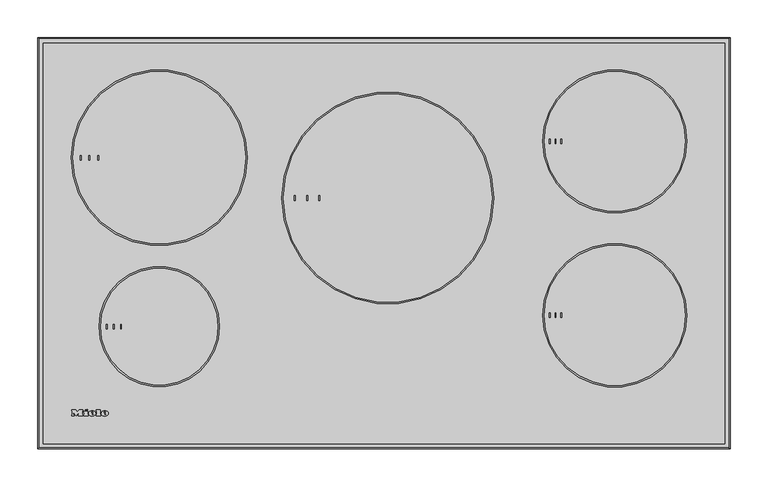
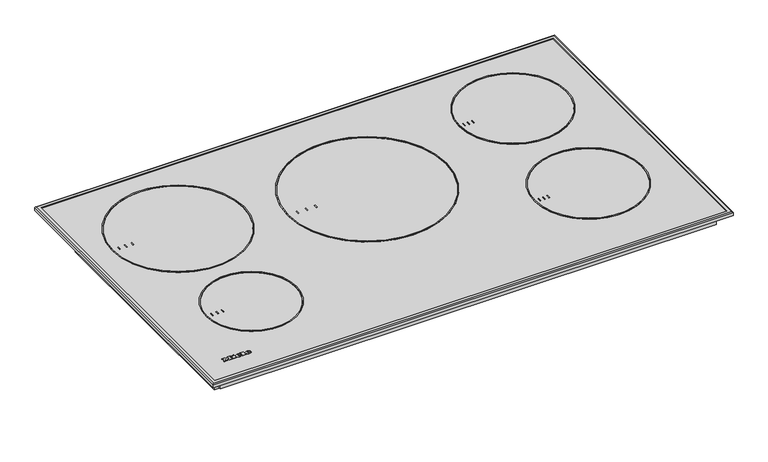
"""IFC4 building model written with IfcOpenShell, lengths in millimetres: proxy geometry, 12074220_USA_KM7740FR : 26774000_USA_12074220_KM7740FR."""

from ifc_helpers import new_model, si_unit, point, frame, frame_2d, origin, origin_with_axes, place, context, project, spatial, polyline, circle_curve, ellipse_curve, trimmed, segment, composite_curve, outline, extrude, source, transform, mapped, element, save
from ifc_brep_helpers import plane_surface, cylinder_surface, revolved_surface, extruded_surface, advanced_brep


def specialty_equipment_dfc6e14d(model_context):
    return source(origin(), model_context, "Body", "SolidModel", [
        extrude(outline(polyline([(337.5, 507.967223), (337.5, 412.967223), (398.5, 412.967223), (398.5, 84.0082872), (-407.5, 84.0082872), (-407.5, 507.967223), (337.5, 507.967223)])), frame((0.0, 0.0, -73.0), z_axis=(0.0, 0.0, 1.0), x_axis=(1.0, 0.0, 0.0)), (0.0, 0.0, 1.0), 55.0),
        extrude(outline(polyline([(436.5, 529.5), (436.5, 14.5), (-436.5, 14.5), (-436.5, 529.5), (436.5, 529.5)])), frame((0.0, 0.0, -18.0), z_axis=(0.0, 0.0, 1.0), x_axis=(1.0, 0.0, 0.0)), (0.0, 0.0, 1.0), 18.0),
        extrude(outline(polyline([(454.5, 541.0003766), (454.5, 2.9996234), (-454.5, 2.9996234), (-454.5, 541.0003766), (454.5, 541.0003766)])), origin_with_axes(), (0.0, 0.0, 1.0), 5.5),
        advanced_brep(
        [(456.100005, 542.600005, 5.6145786), (456.100005, 542.600005, 0.0), (456.100005, 1.399995, 0.0), (456.100005, 1.399995, 5.6145786), (450.546384, 537.046384, 7.0), (450.546384, 537.046384, 5.6145786), (450.546384, 6.953616, 5.6145786), (450.546384, 6.953616, 7.0), (457.5, 544.0, 5.5), (456.0, 542.5, 7.0), (456.0, 1.5, 7.0), (457.5, 0.0, 5.5), (457.5, 544.0, 0.0), (457.5, 0.0, 0.0), (-456.100005, 1.399995, 0.0), (-456.100005, 1.399995, 5.6145786), (-450.546384, 6.953616, 5.6145786), (-450.546384, 6.953616, 7.0), (-456.0, 1.5, 7.0), (-457.5, 0.0, 5.5), (-457.5, 0.0, 0.0), (-456.100005, 542.600005, 0.0), (-456.100005, 542.600005, 5.6145786), (-450.546384, 537.046384, 5.6145786), (-450.546384, 537.046384, 7.0), (-456.0, 542.5, 7.0), (-457.5, 544.0, 5.5), (-457.5, 544.0, 0.0)],
        [
            (0, 1),
            (1, 2),
            (2, 3),
            (3, 0),
            (4, 5),
            (5, 6),
            (6, 7),
            (7, 4),
            (8, 9, ellipse_curve(frame((456.0, 542.5, 5.5), z_axis=(0.7071067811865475, -0.7071067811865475, 0.0), x_axis=(0.7071067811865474, 0.7071067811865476, 0.0)), 2.1213203, 1.5)),
            (9, 10),
            (10, 11, ellipse_curve(frame((456.0, 1.5, 5.5), z_axis=(0.7071067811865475, 0.7071067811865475, 0.0), x_axis=(-0.7071067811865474, 0.7071067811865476, 0.0)), 2.1213203, 1.5)),
            (11, 8),
            (12, 8),
            (11, 13),
            (13, 12),
            (2, 14),
            (14, 15),
            (15, 3),
            (6, 16),
            (16, 17),
            (17, 7),
            (10, 18),
            (18, 19, ellipse_curve(frame((-456.0, 1.5, 5.5), z_axis=(0.7071067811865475, -0.7071067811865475, 0.0), x_axis=(0.7071067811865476, 0.7071067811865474, 0.0)), 2.1213203, 1.5)),
            (19, 11),
            (19, 20),
            (20, 13),
            (14, 21),
            (21, 22),
            (22, 15),
            (16, 23),
            (23, 24),
            (24, 17),
            (18, 25),
            (25, 26, ellipse_curve(frame((-456.0, 542.5, 5.5), z_axis=(-0.7071067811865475, -0.7071067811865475, 0.0), x_axis=(0.7071067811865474, -0.7071067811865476, 0.0)), 2.1213203, 1.5)),
            (26, 19),
            (26, 27),
            (27, 20),
            (21, 1),
            (0, 22),
            (5, 23),
            (4, 24),
            (9, 25),
            (8, 26),
            (12, 27),
        ],
        [
            plane_surface(frame((456.100005, 542.600005, 0.0), z_axis=(-1.0, 0.0, 0.0), x_axis=(0.0, -1.0, 0.0))),
            plane_surface(frame((450.546384, 537.046384, 5.6145786), z_axis=(-1.0, 0.0, 0.0), x_axis=(0.0, -1.0, 0.0))),
            cylinder_surface(frame((456.0, 544.0, 5.5), z_axis=(0.0, 1.0, 0.0), x_axis=(1.0, 0.0, 0.0)), 1.5),
            plane_surface(frame((457.5, 544.0, 5.5), z_axis=(1.0, 0.0, 0.0), x_axis=(0.0, -1.0, 0.0))),
            plane_surface(frame((456.100005, 1.399995, 0.0), z_axis=(0.0, 1.0, 0.0), x_axis=(-1.0, 0.0, 0.0))),
            plane_surface(frame((450.546384, 6.953616, 5.6145786), z_axis=(0.0, 1.0, 0.0), x_axis=(-1.0, 0.0, 0.0))),
            cylinder_surface(frame((457.5, 1.5, 5.5), z_axis=(1.0, 0.0, 0.0), x_axis=(0.0, -1.0, 0.0)), 1.5),
            plane_surface(frame((457.5, 0.0, 5.5), z_axis=(0.0, -1.0, 0.0), x_axis=(-1.0, 0.0, 0.0))),
            plane_surface(frame((-456.100005, 1.399995, 0.0), z_axis=(1.0, 0.0, 0.0), x_axis=(0.0, 1.0, 0.0))),
            plane_surface(frame((-450.546384, 6.953616, 5.6145786), z_axis=(1.0, 0.0, 0.0), x_axis=(0.0, 1.0, 0.0))),
            cylinder_surface(frame((-456.0, 0.0, 5.5), z_axis=(0.0, -1.0, 0.0), x_axis=(-1.0, 0.0, 0.0)), 1.5),
            plane_surface(frame((-457.5, 0.0, 5.5), z_axis=(-1.0, 0.0, 0.0), x_axis=(0.0, 1.0, 0.0))),
            plane_surface(frame((-456.100005, 542.600005, 0.0), z_axis=(0.0, -1.0, 0.0), x_axis=(1.0, 0.0, 0.0))),
            plane_surface(frame((-456.100005, 542.600005, 5.6145786), z_axis=(0.0, 0.0, -1.0), x_axis=(1.0, 0.0, 0.0))),
            plane_surface(frame((-450.546384, 537.046384, 5.6145786), z_axis=(0.0, -1.0, 0.0), x_axis=(1.0, 0.0, 0.0))),
            plane_surface(frame((-450.546384, 537.046384, 7.0), z_axis=(0.0, 0.0, 1.0), x_axis=(1.0, 0.0, 0.0))),
            cylinder_surface(frame((-457.5, 542.5, 5.5), z_axis=(-1.0, 0.0, 0.0), x_axis=(0.0, 1.0, 0.0)), 1.5),
            plane_surface(frame((-457.5, 544.0, 5.5), z_axis=(0.0, 1.0, 0.0), x_axis=(1.0, 0.0, 0.0))),
            plane_surface(frame((-457.5, 544.0, 0.0), z_axis=(0.0, 0.0, -1.0), x_axis=(1.0, 0.0, 0.0))),
        ],
        [
            (0, [[1, 2, 3, 4]]),
            (1, [[5, 6, 7, 8]]),
            (2, [[9, 10, 11, 12]]),
            (3, [[13, -12, 14, 15]]),
            (4, [[-3, 16, 17, 18]]),
            (5, [[-7, 19, 20, 21]]),
            (6, [[-11, 22, 23, 24]]),
            (7, [[-14, -24, 25, 26]]),
            (8, [[-17, 27, 28, 29]]),
            (9, [[-20, 30, 31, 32]]),
            (10, [[-23, 33, 34, 35]]),
            (11, [[-25, -35, 36, 37]]),
            (12, [[-28, 38, -1, 39]]),
            (13, [[-18, -29, -39, -4], [40, -30, -19, -6]]),
            (14, [[-31, -40, -5, 41]]),
            (15, [[42, -33, -22, -10], [-21, -32, -41, -8]]),
            (16, [[-34, -42, -9, 43]]),
            (17, [[-36, -43, -13, 44]]),
            (18, [[-26, -37, -44, -15], [-38, -27, -16, -2]]),
        ],
    ),
        extrude(outline(polyline([(-117.2094316, 329.0101613), (-118.4056402, 329.0101613), (-118.4056402, 335.0020789), (-117.2094316, 335.0020789), (-117.2094316, 329.0101613)])), frame((0.0, 0.0, 5.5), z_axis=(0.0, 0.0, 1.0), x_axis=(1.0, 0.0, 0.0)), (0.0, 0.0, 1.0), 1.0),
        extrude(outline(polyline([(-101.0966441, 329.0101026), (-102.3053924, 329.0101026), (-102.3053924, 334.988062), (-101.0966441, 334.988062), (-101.0966441, 329.0101026)])), frame((0.0, 0.0, 5.5), z_axis=(0.0, 0.0, 1.0), x_axis=(1.0, 0.0, 0.0)), (0.0, 0.0, 1.0), 1.0),
        extrude(outline(polyline([(-84.9979522, 329.0091857), (-86.2059633, 329.0091857), (-86.2059633, 335.0066499), (-84.9979522, 335.0066499), (-84.9979522, 329.0091857)])), frame((0.0, 0.0, 5.5), z_axis=(0.0, 0.0, 1.0), x_axis=(1.0, 0.0, 0.0)), (0.0, 0.0, 1.0), 1.0),
        extrude(outline(composite_curve([segment(trimmed(circle_curve(frame_2d((305.0, 177.0)), 95.0), [point((210.0, 177.0))], [point((400.0, 177.0))], False, "CARTESIAN"), True, "CONTINUOUS"), segment(trimmed(circle_curve(frame_2d((305.0, 177.0)), 95.0), [point((400.0, 177.0))], [point((210.0, 177.0))], False, "CARTESIAN"), True, "CONTINUOUS")], self_intersect=False), holes=[composite_curve([segment(trimmed(circle_curve(frame_2d((305.0, 177.0)), 93.0), [point((212.0, 177.0))], [point((398.0, 177.0))], True, "CARTESIAN"), True, "CONTINUOUS"), segment(trimmed(circle_curve(frame_2d((305.0, 177.0)), 93.0), [point((398.0, 177.0))], [point((212.0, 177.0))], True, "CARTESIAN"), True, "CONTINUOUS")], self_intersect=False)]), frame((0.0, 0.0, 5.5), z_axis=(0.0, 0.0, 1.0), x_axis=(1.0, 0.0, 0.0)), (0.0, 0.0, 1.0), 1.0),
        extrude(outline(polyline([(219.4685475, 180.0109654), (219.4685475, 173.9997523), (218.2459657, 173.9997523), (218.2459657, 180.0109654), (219.4685475, 180.0109654)])), frame((0.0, 0.0, 5.5), z_axis=(0.0, 0.0, 1.0), x_axis=(1.0, 0.0, 0.0)), (0.0, 0.0, 1.0), 1.0),
        extrude(outline(polyline([(227.2298914, 180.004569), (227.2298914, 173.999944), (226.0345054, 173.999944), (226.0345054, 180.004569), (227.2298914, 180.004569)])), frame((0.0, 0.0, 5.5), z_axis=(0.0, 0.0, 1.0), x_axis=(1.0, 0.0, 0.0)), (0.0, 0.0, 1.0), 1.0),
        extrude(outline(polyline([(234.9922897, 173.999944), (233.7842277, 173.999944), (233.7842277, 180.004569), (234.9922897, 180.004569), (234.9922897, 173.999944)])), frame((0.0, 0.0, 5.5), z_axis=(0.0, 0.0, 1.0), x_axis=(1.0, 0.0, 0.0)), (0.0, 0.0, 1.0), 1.0),
        extrude(outline(composite_curve([segment(trimmed(circle_curve(frame_2d((5.0, 332.0)), 140.0), [point((-135.0, 332.0))], [point((145.0, 332.0))], False, "CARTESIAN"), True, "CONTINUOUS"), segment(trimmed(circle_curve(frame_2d((5.0, 332.0)), 140.0), [point((145.0, 332.0))], [point((-135.0, 332.0))], False, "CARTESIAN"), True, "CONTINUOUS")], self_intersect=False), holes=[composite_curve([segment(trimmed(circle_curve(frame_2d((5.0, 332.0)), 138.0), [point((-133.0, 332.0))], [point((143.0, 332.0))], True, "CARTESIAN"), True, "CONTINUOUS"), segment(trimmed(circle_curve(frame_2d((5.0, 332.0)), 138.0), [point((143.0, 332.0))], [point((-133.0, 332.0))], True, "CARTESIAN"), True, "CONTINUOUS")], self_intersect=False)]), frame((0.0, 0.0, 5.5), z_axis=(0.0, 0.0, 1.0), x_axis=(1.0, 0.0, 0.0)), (0.0, 0.0, 1.0), 1.0),
        extrude(outline(polyline([(-54.6543984, 357.2597012), (-44.6087674, 357.2597012), (-44.6087674, 350.0394039), (-45.8644713, 350.0394039), (-45.8644713, 356.0039974), (-48.846768, 356.0039974), (-48.846768, 350.3533299), (-50.1024718, 350.3533299), (-50.1024718, 356.0039974), (-53.3986945, 356.0039974), (-53.3986945, 349.882441), (-54.6543984, 349.882441), (-54.6543984, 357.2597012)])), frame((0.0, 455.5664955, 0.0), z_axis=(0.0, 1.0, 0.0), x_axis=(0.0, 0.0, 1.0)), (0.0, 0.0, 1.0), 1.0),
        extrude(outline(polyline([(-54.6543984, 347.9988851), (-44.6087674, 347.9988851), (-44.6087674, 346.7431813), (-53.3986945, 346.7431813), (-53.3986945, 341.7203658), (-54.6543984, 341.7203658), (-54.6543984, 347.9988851)])), frame((0.0, 455.5664955, 0.0), z_axis=(0.0, 1.0, 0.0), x_axis=(0.0, 0.0, 1.0)), (0.0, 0.0, 1.0), 1.0),
        advanced_brep(
        [(337.5, 423.9999912, -49.6543984), (337.5, 439.9999912, -49.6543984), (359.0665043, 423.9999912, -49.6543984), (343.0665043, 439.9999912, -49.6543984), (359.0665043, 455.5664955, -49.6543984), (343.0665043, 455.5664955, -49.6543984)],
        [
            (0, 1, circle_curve(frame((337.5, 431.9999912, -49.6543984), z_axis=(-1.0, 0.0, 0.0), x_axis=(0.0, 1.0, 0.0)), 8.0)),
            (1, 0, circle_curve(frame((337.5, 431.9999912, -49.6543984), z_axis=(-1.0, 0.0, 0.0), x_axis=(0.0, 1.0, 0.0)), 8.0)),
            (0, 2),
            (2, 3, ellipse_curve(frame((351.0665043, 431.9999912, -49.6543984), z_axis=(-0.7071067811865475, -0.7071067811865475, 0.0), x_axis=(-0.7071067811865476, 0.7071067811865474, 0.0)), 11.3137085, 8.0)),
            (3, 1),
            (3, 2, ellipse_curve(frame((351.0665043, 431.9999912, -49.6543984), z_axis=(-0.7071067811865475, -0.7071067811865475, 0.0), x_axis=(-0.7071067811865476, 0.7071067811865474, 0.0)), 11.3137085, 8.0)),
            (4, 5, circle_curve(frame((351.0665043, 455.5664955, -49.6543984), z_axis=(0.0, 1.0, 0.0), x_axis=(-1.0, 0.0, 0.0)), 8.0)),
            (5, 4, circle_curve(frame((351.0665043, 455.5664955, -49.6543984), z_axis=(0.0, 1.0, 0.0), x_axis=(-1.0, 0.0, 0.0)), 8.0)),
            (2, 4),
            (5, 3),
        ],
        [
            plane_surface(frame((337.5, 435.5664955, 50.5163179), z_axis=(-1.0, 0.0, 0.0), x_axis=(0.0, 0.0, 1.0))),
            cylinder_surface(frame((337.5, 431.9999912, -49.6543984), z_axis=(-1.0, 0.0, 0.0), x_axis=(0.0, 1.0, 0.0)), 8.0),
            plane_surface(frame((347.5, 455.5664955, 50.5163179), z_axis=(0.0, 1.0, 0.0), x_axis=(0.0, 0.0, 1.0))),
            cylinder_surface(frame((351.0665043, 435.5664955, -49.6543984), z_axis=(0.0, -1.0, 0.0), x_axis=(-1.0, 0.0, 0.0)), 8.0),
        ],
        [
            (0, [[1, 2]]),
            (1, [[-1, 3, 4, 5]]),
            (1, [[-2, -5, 6, -3]]),
            (2, [[7, 8]]),
            (3, [[-4, 9, -8, 10]]),
            (3, [[-6, -10, -7, -9]]),
        ],
    ),
        extrude(outline(composite_curve([segment(trimmed(circle_curve(frame_2d((-297.0, 162.0)), 79.5526413), [point((-376.5526413, 162.0))], [point((-217.4473587, 162.0))], False, "CARTESIAN"), True, "CONTINUOUS"), segment(trimmed(circle_curve(frame_2d((-297.0, 162.0)), 79.5526413), [point((-217.4473587, 162.0))], [point((-376.5526413, 162.0))], False, "CARTESIAN"), True, "CONTINUOUS")], self_intersect=False), holes=[composite_curve([segment(trimmed(circle_curve(frame_2d((-297.0, 162.0)), 77.5526413), [point((-374.5526413, 162.0))], [point((-219.4473587, 162.0))], True, "CARTESIAN"), True, "CONTINUOUS"), segment(trimmed(circle_curve(frame_2d((-297.0, 162.0)), 77.5526413), [point((-219.4473587, 162.0))], [point((-374.5526413, 162.0))], True, "CARTESIAN"), True, "CONTINUOUS")], self_intersect=False)]), frame((0.0, 0.0, 5.5), z_axis=(0.0, 0.0, 1.0), x_axis=(1.0, 0.0, 0.0)), (0.0, 0.0, 1.0), 1.0),
        extrude(outline(polyline([(-365.8544534, 164.9888297), (-365.8544534, 158.9851934), (-367.0783352, 158.9851934), (-367.0783352, 164.9888297), (-365.8544534, 164.9888297)])), frame((0.0, 0.0, 5.5), z_axis=(0.0, 0.0, 1.0), x_axis=(1.0, 0.0, 0.0)), (0.0, 0.0, 1.0), 1.0),
        extrude(outline(polyline([(-356.4272558, 158.9851934), (-357.6180597, 158.9851934), (-357.6180597, 164.9888297), (-356.4272558, 164.9888297), (-356.4272558, 158.9851934)])), frame((0.0, 0.0, 5.5), z_axis=(0.0, 0.0, 1.0), x_axis=(1.0, 0.0, 0.0)), (0.0, 0.0, 1.0), 1.0),
        extrude(outline(polyline([(-346.9835194, 164.9888297), (-346.9835194, 158.9851934), (-348.2074011, 158.9851934), (-348.2074011, 164.9888297), (-346.9835194, 164.9888297)])), frame((0.0, 0.0, 5.5), z_axis=(0.0, 0.0, 1.0), x_axis=(1.0, 0.0, 0.0)), (0.0, 0.0, 1.0), 1.0),
        extrude(outline(composite_curve([segment(trimmed(circle_curve(frame_2d((-297.0, 385.3)), 116.2069307), [point((-413.2069307, 385.3))], [point((-180.7930693, 385.3))], False, "CARTESIAN"), True, "CONTINUOUS"), segment(trimmed(circle_curve(frame_2d((-297.0, 385.3)), 116.2069307), [point((-180.7930693, 385.3))], [point((-413.2069307, 385.3))], False, "CARTESIAN"), True, "CONTINUOUS")], self_intersect=False), holes=[composite_curve([segment(trimmed(circle_curve(frame_2d((-297.0, 385.3)), 114.2069307), [point((-411.2069307, 385.3))], [point((-182.7930693, 385.3))], True, "CARTESIAN"), True, "CONTINUOUS"), segment(trimmed(circle_curve(frame_2d((-297.0, 385.3)), 114.2069307), [point((-182.7930693, 385.3))], [point((-411.2069307, 385.3))], True, "CARTESIAN"), True, "CONTINUOUS")], self_intersect=False)]), frame((0.0, 0.0, 5.5), z_axis=(0.0, 0.0, 1.0), x_axis=(1.0, 0.0, 0.0)), (0.0, 0.0, 1.0), 1.0),
        extrude(outline(polyline([(-400.3434268, 388.3104614), (-400.3434268, 382.306825), (-401.5342307, 382.306825), (-401.5342307, 388.3104614), (-400.3434268, 388.3104614)])), frame((0.0, 0.0, 5.5), z_axis=(0.0, 0.0, 1.0), x_axis=(1.0, 0.0, 0.0)), (0.0, 0.0, 1.0), 1.0),
        extrude(outline(polyline([(-388.666933, 388.3270003), (-388.666933, 382.2737472), (-389.9073538, 382.2737472), (-389.9073538, 388.3270003), (-388.666933, 388.3270003)])), frame((0.0, 0.0, 5.5), z_axis=(0.0, 0.0, 1.0), x_axis=(1.0, 0.0, 0.0)), (0.0, 0.0, 1.0), 1.0),
        extrude(outline(polyline([(-376.9974439, 388.2974992), (-376.9974439, 382.3041668), (-378.2054772, 382.3041668), (-378.2054772, 388.2974992), (-376.9974439, 388.2974992)])), frame((0.0, 0.0, 5.5), z_axis=(0.0, 0.0, 1.0), x_axis=(1.0, 0.0, 0.0)), (0.0, 0.0, 1.0), 1.0),
        extrude(outline(composite_curve([segment(trimmed(circle_curve(frame_2d((305.0, 407.0)), 95.0), [point((210.0, 407.0))], [point((400.0, 407.0))], False, "CARTESIAN"), True, "CONTINUOUS"), segment(trimmed(circle_curve(frame_2d((305.0, 407.0)), 95.0), [point((400.0, 407.0))], [point((210.0, 407.0))], False, "CARTESIAN"), True, "CONTINUOUS")], self_intersect=False), holes=[composite_curve([segment(trimmed(circle_curve(frame_2d((305.0, 407.0)), 93.0), [point((212.0, 407.0))], [point((398.0, 407.0))], True, "CARTESIAN"), True, "CONTINUOUS"), segment(trimmed(circle_curve(frame_2d((305.0, 407.0)), 93.0), [point((398.0, 407.0))], [point((212.0, 407.0))], True, "CARTESIAN"), True, "CONTINUOUS")], self_intersect=False)]), frame((0.0, 0.0, 5.5), z_axis=(0.0, 0.0, 1.0), x_axis=(1.0, 0.0, 0.0)), (0.0, 0.0, 1.0), 1.0),
        extrude(outline(polyline([(219.45432, 410.0004117), (219.45432, 404.0031891), (218.2637756, 404.0031891), (218.2637756, 410.0004117), (219.45432, 410.0004117)])), frame((0.0, 0.0, 5.5), z_axis=(0.0, 0.0, 1.0), x_axis=(1.0, 0.0, 0.0)), (0.0, 0.0, 1.0), 1.0),
        extrude(outline(polyline([(227.243635, 410.0015472), (227.243635, 404.0031891), (226.0293514, 404.0031891), (226.0293514, 410.0015472), (227.243635, 410.0015472)])), frame((0.0, 0.0, 5.5), z_axis=(0.0, 0.0, 1.0), x_axis=(1.0, 0.0, 0.0)), (0.0, 0.0, 1.0), 1.0),
        extrude(outline(polyline([(235.0010161, 410.0002689), (235.0010161, 403.9996722), (233.8008127, 403.9996722), (233.8008127, 410.0002689), (235.0010161, 410.0002689)])), frame((0.0, 0.0, 5.5), z_axis=(0.0, 0.0, 1.0), x_axis=(1.0, 0.0, 0.0)), (0.0, 0.0, 1.0), 1.0),
        advanced_brep(
        [(-369.64, 45.896, 6.5), (-369.64, 46.704, 6.5), (-364.288, 46.704, 6.5), (-373.6, 46.704, 6.5), (-371.4, 44.0, 6.5), (-364.424, 45.896, 6.5), (-366.84, 45.896, 6.5), (-368.744, 45.0, 6.5), (-369.64, 47.728, 6.5), (-369.64, 48.6, 6.5), (-368.272, 48.6, 6.5), (-368.272, 47.728, 6.5), (-369.64, 45.896, 5.5), (-368.744, 45.0, 5.5), (-366.84, 45.896, 5.5), (-364.424, 45.896, 5.5), (-371.4, 44.0, 5.5), (-373.6, 46.704, 5.5), (-364.288, 46.704, 5.5), (-369.64, 46.704, 5.5), (-369.64, 47.728, 5.5), (-368.272, 47.728, 5.5), (-368.272, 48.6, 5.5), (-369.64, 48.6, 5.5)],
        [
            (0, 1),
            (1, 2),
            (2, 3, ellipse_curve(frame((-368.944, 46.704, 6.5), z_axis=(0.0, 0.0, 1.0), x_axis=(-1.0, 0.0, 0.0)), 4.656, 3.848)),
            (3, 4, circle_curve(frame((-370.5039564, 46.976, 6.5), z_axis=(0.0, 0.0, 1.0), x_axis=(0.0, -1.0, 0.0)), 3.1079688)),
            (4, 5, circle_curve(frame((-369.0372064, 49.088, 6.5), z_axis=(0.0, 0.0, 1.0), x_axis=(0.0, -1.0, 0.0)), 5.6098607)),
            (5, 6),
            (6, 7, circle_curve(frame((-368.3529412, 46.64, 6.5), z_axis=(0.0, 0.0, -1.0), x_axis=(0.0, -1.0, 0.0)), 1.6859795)),
            (7, 0, circle_curve(frame((-368.744, 45.896, 6.5), z_axis=(0.0, 0.0, -1.0), x_axis=(0.0, -1.0, 0.0)), 0.896)),
            (8, 9),
            (9, 10, circle_curve(frame((-368.956, 48.6, 6.5), z_axis=(0.0, 0.0, -1.0), x_axis=(0.0, -1.0, 0.0)), 0.684)),
            (10, 11),
            (11, 8),
            (12, 13, circle_curve(frame((-368.744, 45.896, 5.5), z_axis=(0.0, 0.0, 1.0), x_axis=(0.0, -1.0, 0.0)), 0.896)),
            (13, 14, circle_curve(frame((-368.3529412, 46.64, 5.5), z_axis=(0.0, 0.0, 1.0), x_axis=(0.0, -1.0, 0.0)), 1.6859795)),
            (14, 15),
            (15, 16, circle_curve(frame((-369.0372064, 49.088, 5.5), z_axis=(0.0, 0.0, -1.0), x_axis=(0.0, -1.0, 0.0)), 5.6098607)),
            (16, 17, circle_curve(frame((-370.5039564, 46.976, 5.5), z_axis=(0.0, 0.0, -1.0), x_axis=(0.0, -1.0, 0.0)), 3.1079688)),
            (17, 18, ellipse_curve(frame((-368.944, 46.704, 5.5), z_axis=(0.0, 0.0, -1.0), x_axis=(-1.0, 0.0, 0.0)), 4.656, 3.848)),
            (18, 19),
            (19, 12),
            (20, 21),
            (21, 22),
            (22, 23, circle_curve(frame((-368.956, 48.6, 5.5), z_axis=(0.0, 0.0, 1.0), x_axis=(0.0, -1.0, 0.0)), 0.684)),
            (23, 20),
            (0, 12),
            (19, 1),
            (18, 2),
            (5, 15),
            (14, 6),
            (17, 3),
            (13, 7),
            (16, 4),
            (8, 20),
            (23, 9),
            (22, 10),
            (21, 11),
        ],
        [
            plane_surface(frame((-369.64, 46.704, 6.5), z_axis=(0.0, 0.0, 1.0), x_axis=(0.0, 1.0, 0.0))),
            plane_surface(frame((-369.64, 46.704, 5.5), z_axis=(0.0, 0.0, -1.0), x_axis=(0.0, -1.0, 0.0))),
            plane_surface(frame((-369.64, 45.896, 6.5), z_axis=(1.0, 0.0, 0.0), x_axis=(0.0, 0.0, -1.0))),
            plane_surface(frame((-369.64, 46.704, 6.5), z_axis=(0.0, -1.0, 0.0), x_axis=(0.0, 0.0, -1.0))),
            plane_surface(frame((-364.424, 45.896, 6.5), z_axis=(0.0, 1.0, 0.0), x_axis=(0.0, 0.0, -1.0))),
            extruded_surface(trimmed(ellipse_curve(frame((-368.944, 46.704, 4.5), z_axis=(0.0, 0.0, 1.0), x_axis=(-1.0, 0.0, 0.0)), 4.656, 3.848), [point((-364.288, 46.704, 4.5))], [point((-373.6, 46.704, 4.5))], True, "CARTESIAN"), (0.0, 0.0, 1.0), 1.0),
            revolved_surface(polyline([(-368.3529412, 44.9540205, 5.5), (-368.3529412, 44.9540205, 6.5)]), (-368.3529412, 46.64, 5.5), (0.0, 0.0, -1.0)),
            revolved_surface(polyline([(-368.744, 45.0, 5.5), (-368.744, 45.0, 6.5)]), (-368.744, 45.896, 5.5), (0.0, 0.0, -1.0)),
            cylinder_surface(frame((-370.5039564, 46.976, 5.5), z_axis=(0.0, 0.0, 1.0), x_axis=(0.0, -1.0, 0.0)), 3.1079688),
            cylinder_surface(frame((-369.0372064, 49.088, 5.5), z_axis=(0.0, 0.0, 1.0), x_axis=(0.0, -1.0, 0.0)), 5.6098607),
            plane_surface(frame((-369.64, 47.728, 6.5), z_axis=(1.0, 0.0, 0.0), x_axis=(0.0, 0.0, -1.0))),
            revolved_surface(polyline([(-368.956, 47.916000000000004, 5.5), (-368.956, 47.916000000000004, 6.5)]), (-368.956, 48.6, 5.5), (0.0, 0.0, -1.0)),
            plane_surface(frame((-368.272, 48.6, 6.5), z_axis=(-1.0, 0.0, 0.0), x_axis=(0.0, 0.0, -1.0))),
            plane_surface(frame((-368.272, 47.728, 6.5), z_axis=(0.0, 1.0, 0.0), x_axis=(0.0, 0.0, -1.0))),
        ],
        [
            (0, [[1, 2, 3, 4, 5, 6, 7, 8], [9, 10, 11, 12]]),
            (1, [[13, 14, 15, 16, 17, 18, 19, 20], [21, 22, 23, 24]]),
            (2, [[-1, 25, -20, 26]]),
            (3, [[-2, -26, -19, 27]]),
            (4, [[-6, 28, -15, 29]]),
            (5, [[-3, -27, -18, 30]]),
            (6, [[-7, -29, -14, 31]]),
            (7, [[-8, -31, -13, -25]]),
            (8, [[-4, -30, -17, 32]]),
            (9, [[-5, -32, -16, -28]]),
            (10, [[-9, 33, -24, 34]]),
            (11, [[-10, -34, -23, 35]]),
            (12, [[-11, -35, -22, 36]]),
            (13, [[-12, -36, -21, -33]]),
        ],
    ),
        advanced_brep(
        [(-386.336, 45.896, 6.5), (-386.336, 46.704, 6.5), (-380.984, 46.704, 6.5), (-390.296, 46.704, 6.5), (-388.096, 44.0, 6.5), (-381.12, 45.896, 6.5), (-383.536, 45.896, 6.5), (-385.44, 45.0, 6.5), (-386.336, 47.728, 6.5), (-386.336, 48.6, 6.5), (-384.968, 48.6, 6.5), (-384.968, 47.728, 6.5), (-386.336, 45.896, 5.5), (-385.44, 45.0, 5.5), (-383.536, 45.896, 5.5), (-381.12, 45.896, 5.5), (-388.096, 44.0, 5.5), (-390.296, 46.704, 5.5), (-380.984, 46.704, 5.5), (-386.336, 46.704, 5.5), (-386.336, 47.728, 5.5), (-384.968, 47.728, 5.5), (-384.968, 48.6, 5.5), (-386.336, 48.6, 5.5)],
        [
            (0, 1),
            (1, 2),
            (2, 3, ellipse_curve(frame((-385.64, 46.704, 6.5), z_axis=(0.0, 0.0, 1.0), x_axis=(-1.0, 0.0, 0.0)), 4.656, 3.848)),
            (3, 4, circle_curve(frame((-387.1999564, 46.976, 6.5), z_axis=(0.0, 0.0, 1.0), x_axis=(0.0, -1.0, 0.0)), 3.1079688)),
            (4, 5, circle_curve(frame((-385.7332064, 49.088, 6.5), z_axis=(0.0, 0.0, 1.0), x_axis=(0.0, -1.0, 0.0)), 5.6098607)),
            (5, 6),
            (6, 7, circle_curve(frame((-385.0489412, 46.64, 6.5), z_axis=(0.0, 0.0, -1.0), x_axis=(0.0, -1.0, 0.0)), 1.6859795)),
            (7, 0, circle_curve(frame((-385.44, 45.896, 6.5), z_axis=(0.0, 0.0, -1.0), x_axis=(0.0, -1.0, 0.0)), 0.896)),
            (8, 9),
            (9, 10, circle_curve(frame((-385.652, 48.6, 6.5), z_axis=(0.0, 0.0, -1.0), x_axis=(0.0, -1.0, 0.0)), 0.684)),
            (10, 11),
            (11, 8),
            (12, 13, circle_curve(frame((-385.44, 45.896, 5.5), z_axis=(0.0, 0.0, 1.0), x_axis=(0.0, -1.0, 0.0)), 0.896)),
            (13, 14, circle_curve(frame((-385.0489412, 46.64, 5.5), z_axis=(0.0, 0.0, 1.0), x_axis=(0.0, -1.0, 0.0)), 1.6859795)),
            (14, 15),
            (15, 16, circle_curve(frame((-385.7332064, 49.088, 5.5), z_axis=(0.0, 0.0, -1.0), x_axis=(0.0, -1.0, 0.0)), 5.6098607)),
            (16, 17, circle_curve(frame((-387.1999564, 46.976, 5.5), z_axis=(0.0, 0.0, -1.0), x_axis=(0.0, -1.0, 0.0)), 3.1079688)),
            (17, 18, ellipse_curve(frame((-385.64, 46.704, 5.5), z_axis=(0.0, 0.0, -1.0), x_axis=(-1.0, 0.0, 0.0)), 4.656, 3.848)),
            (18, 19),
            (19, 12),
            (20, 21),
            (21, 22),
            (22, 23, circle_curve(frame((-385.652, 48.6, 5.5), z_axis=(0.0, 0.0, 1.0), x_axis=(0.0, -1.0, 0.0)), 0.684)),
            (23, 20),
            (0, 12),
            (19, 1),
            (18, 2),
            (5, 15),
            (14, 6),
            (17, 3),
            (13, 7),
            (16, 4),
            (8, 20),
            (23, 9),
            (22, 10),
            (21, 11),
        ],
        [
            plane_surface(frame((-386.336, 46.704, 6.5), z_axis=(0.0, 0.0, 1.0), x_axis=(0.0, 1.0, 0.0))),
            plane_surface(frame((-386.336, 46.704, 5.5), z_axis=(0.0, 0.0, -1.0), x_axis=(0.0, -1.0, 0.0))),
            plane_surface(frame((-386.336, 45.896, 6.5), z_axis=(1.0, 0.0, 0.0), x_axis=(0.0, 0.0, -1.0))),
            plane_surface(frame((-386.336, 46.704, 6.5), z_axis=(0.0, -1.0, 0.0), x_axis=(0.0, 0.0, -1.0))),
            plane_surface(frame((-381.12, 45.896, 6.5), z_axis=(0.0, 1.0, 0.0), x_axis=(0.0, 0.0, -1.0))),
            extruded_surface(trimmed(ellipse_curve(frame((-385.64, 46.704, 4.5), z_axis=(0.0, 0.0, 1.0), x_axis=(-1.0, 0.0, 0.0)), 4.656, 3.848), [point((-380.984, 46.704, 4.5))], [point((-390.296, 46.704, 4.5))], True, "CARTESIAN"), (0.0, 0.0, 1.0), 1.0),
            revolved_surface(polyline([(-385.0489412, 44.9540205, 5.5), (-385.0489412, 44.9540205, 6.5)]), (-385.0489412, 46.64, 5.5), (0.0, 0.0, -1.0)),
            revolved_surface(polyline([(-385.44, 45.0, 5.5), (-385.44, 45.0, 6.5)]), (-385.44, 45.896, 5.5), (0.0, 0.0, -1.0)),
            cylinder_surface(frame((-387.1999564, 46.976, 5.5), z_axis=(0.0, 0.0, 1.0), x_axis=(0.0, -1.0, 0.0)), 3.1079688),
            cylinder_surface(frame((-385.7332064, 49.088, 5.5), z_axis=(0.0, 0.0, 1.0), x_axis=(0.0, -1.0, 0.0)), 5.6098607),
            plane_surface(frame((-386.336, 47.728, 6.5), z_axis=(1.0, 0.0, 0.0), x_axis=(0.0, 0.0, -1.0))),
            revolved_surface(polyline([(-385.652, 47.916000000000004, 5.5), (-385.652, 47.916000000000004, 6.5)]), (-385.652, 48.6, 5.5), (0.0, 0.0, -1.0)),
            plane_surface(frame((-384.968, 48.6, 6.5), z_axis=(-1.0, 0.0, 0.0), x_axis=(0.0, 0.0, -1.0))),
            plane_surface(frame((-384.968, 47.728, 6.5), z_axis=(0.0, 1.0, 0.0), x_axis=(0.0, 0.0, -1.0))),
        ],
        [
            (0, [[1, 2, 3, 4, 5, 6, 7, 8], [9, 10, 11, 12]]),
            (1, [[13, 14, 15, 16, 17, 18, 19, 20], [21, 22, 23, 24]]),
            (2, [[-1, 25, -20, 26]]),
            (3, [[-2, -26, -19, 27]]),
            (4, [[-6, 28, -15, 29]]),
            (5, [[-3, -27, -18, 30]]),
            (6, [[-7, -29, -14, 31]]),
            (7, [[-8, -31, -13, -25]]),
            (8, [[-4, -30, -17, 32]]),
            (9, [[-5, -32, -16, -28]]),
            (10, [[-9, 33, -24, 34]]),
            (11, [[-10, -34, -23, 35]]),
            (12, [[-11, -35, -22, 36]]),
            (13, [[-12, -36, -21, -33]]),
        ],
    ),
        extrude(outline(polyline([(-395.08, 51.528), (-392.36, 52.792), (-391.76, 51.496), (-394.472, 50.232), (-395.08, 51.528)])), frame((0.0, 0.0, 5.5), z_axis=(0.0, 0.0, 1.0), x_axis=(1.0, 0.0, 0.0)), (0.0, 0.0, 1.0), 1.0),
        extrude(outline(polyline([(-397.056, 50.056), (-391.672, 50.056), (-391.672, 45.344), (-390.744, 45.344), (-390.744, 44.0), (-397.056, 44.0), (-397.056, 45.344), (-396.104, 45.344), (-396.104, 48.624), (-397.056, 48.624), (-397.056, 50.056)])), frame((0.0, 0.0, 5.5), z_axis=(0.0, 0.0, 1.0), x_axis=(1.0, 0.0, 0.0)), (0.0, 0.0, 1.0), 1.0),
        extrude(outline(polyline([(-380.536, 50.696), (-380.536, 52.0), (-375.032, 52.0), (-375.032, 45.344), (-374.048, 45.344), (-374.048, 44.0), (-380.536, 44.0), (-380.536, 45.344), (-379.576, 45.344), (-379.576, 50.696), (-380.536, 50.696)])), frame((0.0, 0.0, 5.5), z_axis=(0.0, 0.0, 1.0), x_axis=(1.0, 0.0, 0.0)), (0.0, 0.0, 1.0), 1.0),
        extrude(outline(polyline([(-413.0, 50.696), (-413.0, 52.0), (-407.424, 52.0), (-405.08, 49.0), (-402.744, 52.0), (-397.872, 52.0), (-397.872, 50.696), (-398.888, 50.696), (-398.888, 45.344), (-397.872, 45.344), (-397.872, 44.0), (-404.256, 44.0), (-404.256, 45.344), (-403.272, 45.344), (-403.272, 48.8152223), (-406.864, 44.0), (-410.44, 48.7471247), (-410.44, 45.344), (-409.48, 45.344), (-409.48, 44.0), (-413.0, 44.0), (-413.0, 45.344), (-412.032, 45.344), (-412.032, 50.696), (-413.0, 50.696)])), frame((0.0, 0.0, 5.5), z_axis=(0.0, 0.0, 1.0), x_axis=(1.0, 0.0, 0.0)), (0.0, 0.0, 1.0), 1.0),
    ])


if __name__ == "__main__":
    model = new_model("IFC4")
    model_context = context("Model", 3, world=origin())
    ifc_project = project(units=[si_unit("LENGTHUNIT", "METRE", prefix="MILLI")], contexts=[model_context])
    site = spatial("IfcSite", under=ifc_project)
    building = spatial("IfcBuilding", under=site)
    placement = place(None, origin())
    specialty_equipment_shape = specialty_equipment_dfc6e14d(model_context)
    element("IfcBuildingElementProxy", 1, Name="12074220_USA_KM7740FR : 26774000_USA_12074220_KM7740FR", ObjectType="12074220_USA_KM7740FR : 26774000_USA_12074220_KM7740FR", at=placement, inside=building, context=model_context, shape_type="MappedRepresentation", body=[
        mapped(specialty_equipment_shape, transform((0.0, 0.0, 0.0), x_axis=(1.0, 0.0, 0.0), y_axis=(0.0, 1.0, 0.0), z_axis=(0.0, 0.0, 1.0))),
    ])
    save(model, "model.ifc")
